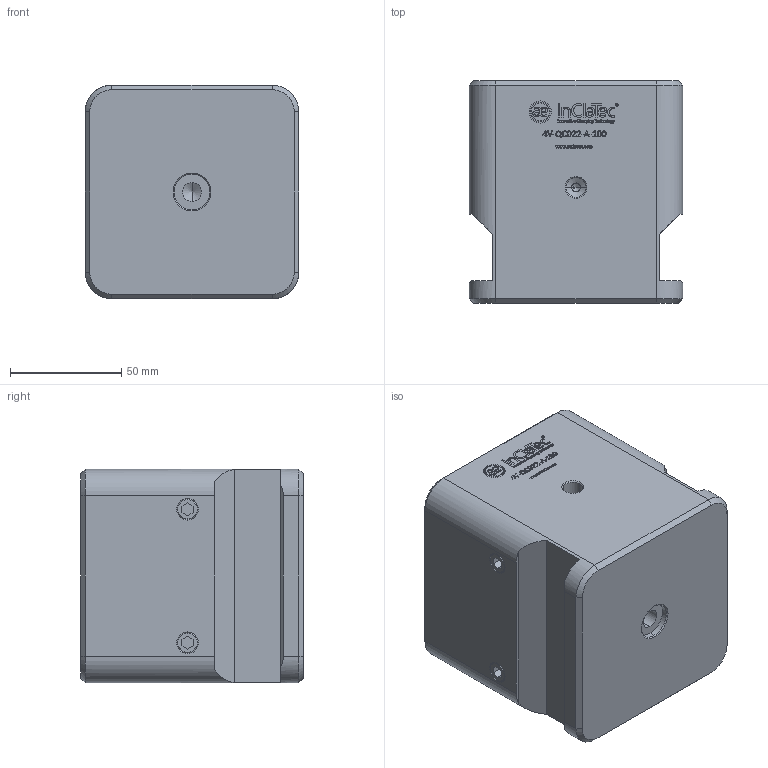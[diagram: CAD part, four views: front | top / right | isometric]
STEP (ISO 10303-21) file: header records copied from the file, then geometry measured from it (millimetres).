
FILE_DESCRIPTION (( 'STEP AP203' ), '1' );
FILE_NAME ('4V-QC022-A-100.STEP', '2016-10-18T11:36:10', ( '' ), ( '' ), 'SwSTEP 2.0', 'SolidWorks 2016', '' );
FILE_SCHEMA (( 'CONFIG_CONTROL_DESIGN' ));
Products named in the file (1): 4V-QC022-A-100
Bounding box: 96 x 100 x 96 mm (x, y, z)
Volume: 811239.9 mm3; surface area: 72064.6 mm2
Topology: 7 solids, 7 shells, 2262 faces, 6336 edges, 4174 vertices
Faces by surface type: plane 1809, cylinder 375, cone 46, torus 32
Entity records: 71838 total; most frequent: CARTESIAN_POINT 12877, ORIENTED_EDGE 12640, DIRECTION 11619, EDGE_CURVE 6320, LINE 5467, VECTOR 5467, VERTEX_POINT 4174, AXIS2_PLACEMENT_3D 3076
